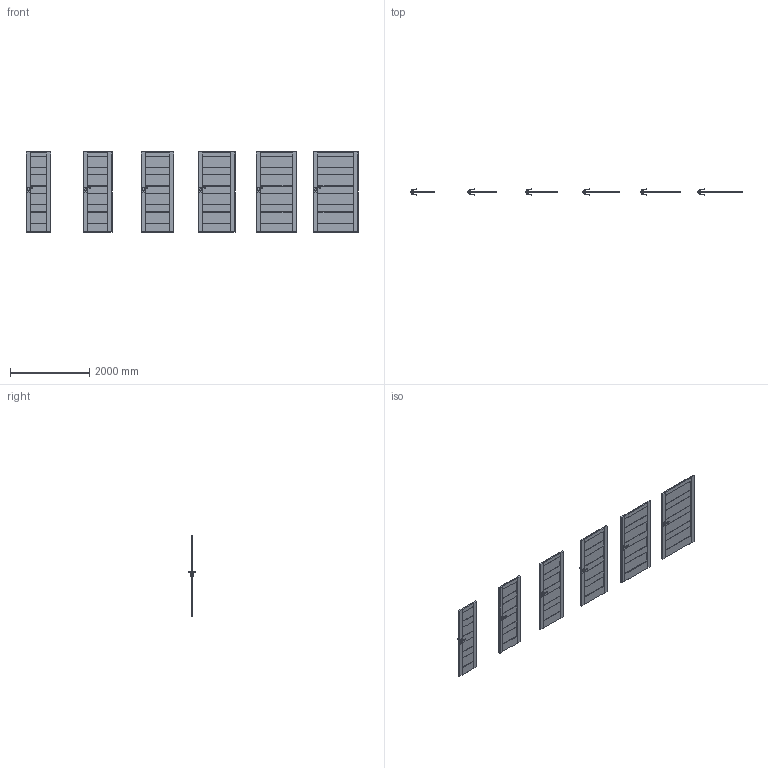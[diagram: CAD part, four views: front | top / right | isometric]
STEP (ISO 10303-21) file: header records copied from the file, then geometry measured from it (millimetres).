
FILE_DESCRIPTION(/* description */ (''),/* implementation_level */ '2;1');
FILE_NAME(/* name */ '049784_A_2-Skrzydło Verte Home model L_ polska norma _PN__ bezprzylgowe..stp',/* time_stamp */ '2024-03-20T13:19:59+01:00',/* author */ (''),/* organization */ (''),/* preprocessor_version */ 'ST-DEVELOPER v16',/* originating_system */ 'SIEMENS PLM Software NX 11.0',/* authorisation */ '');
FILE_SCHEMA (('AUTOMOTIVE_DESIGN { 1 0 10303 214 3 1 1 1 }'));
Products named in the file (1): bkni07C41804n39f
Bounding box: 8368 x 153.27 x 2017.01 mm (x, y, z)
Volume: 194502245.5 mm3; surface area: 23656658.7 mm2
Topology: 30 solids, 30 shells, 1728 faces, 4476 edges, 2688 vertices
Faces by surface type: plane 924, cylinder 444, bspline 192, sphere 168
Entity records: 58121 total; most frequent: CARTESIAN_POINT 17149, ORIENTED_EDGE 8616, DIRECTION 8294, EDGE_CURVE 4308, AXIS2_PLACEMENT_3D 2809, VERTEX_POINT 2688, LINE 2676, VECTOR 2676
